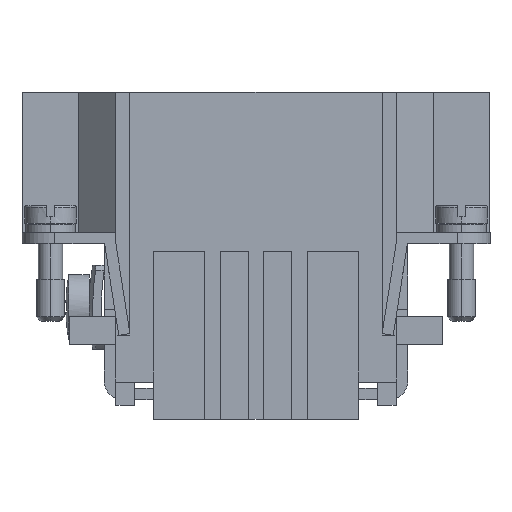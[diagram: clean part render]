
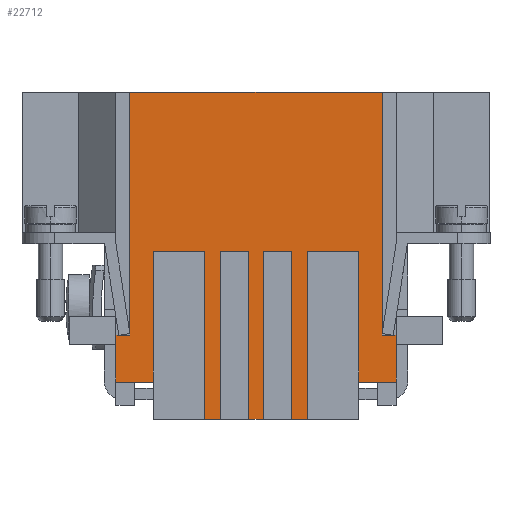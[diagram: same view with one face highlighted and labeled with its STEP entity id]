
A CAD part, front view. The second image highlights one B-rep face of the part: STEP entity #22712.
In plain terms, the highlighted planar face has unit normal (0, -1, 0).
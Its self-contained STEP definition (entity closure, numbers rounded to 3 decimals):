
#9570=CARTESIAN_POINT('',(5.5,-17.0,-35.0));
#9571=VERTEX_POINT('',#9570);
#9578=CARTESIAN_POINT('',(3.75,-17.0,-35.0));
#9579=VERTEX_POINT('',#9578);
#9580=CARTESIAN_POINT('',(3.75,-17.0,-35.0));
#9581=DIRECTION('',(1.0,0.0,0.0));
#9582=VECTOR('',#9581,1.75);
#9583=LINE('',#9580,#9582);
#9584=EDGE_CURVE('',#9579,#9571,#9583,.T.);
#9602=CARTESIAN_POINT('',(0.75,-17.0,-35.0));
#9603=VERTEX_POINT('',#9602);
#9610=CARTESIAN_POINT('',(-0.75,-17.0,-35.0));
#9611=VERTEX_POINT('',#9610);
#9612=CARTESIAN_POINT('',(-0.75,-17.0,-35.0));
#9613=DIRECTION('',(1.0,0.0,0.0));
#9614=VECTOR('',#9613,1.5);
#9615=LINE('',#9612,#9614);
#9616=EDGE_CURVE('',#9611,#9603,#9615,.T.);
#9634=CARTESIAN_POINT('',(-3.75,-17.0,-35.0));
#9635=VERTEX_POINT('',#9634);
#9642=CARTESIAN_POINT('',(-5.5,-17.0,-35.0));
#9643=VERTEX_POINT('',#9642);
#9644=CARTESIAN_POINT('',(-5.5,-17.0,-35.0));
#9645=DIRECTION('',(1.0,0.0,0.0));
#9646=VECTOR('',#9645,1.75);
#9647=LINE('',#9644,#9646);
#9648=EDGE_CURVE('',#9643,#9635,#9647,.T.);
#13465=CARTESIAN_POINT('',(-15.0,-17.0,-31.0));
#13466=VERTEX_POINT('',#13465);
#13473=CARTESIAN_POINT('',(-15.0,-17.0,-26.));
#13474=VERTEX_POINT('',#13473);
#13475=CARTESIAN_POINT('',(-15.0,-17.0,-26.));
#13476=DIRECTION('',(0.0,0.0,-1.0));
#13477=VECTOR('',#13476,5.);
#13478=LINE('',#13475,#13477);
#13479=EDGE_CURVE('',#13474,#13466,#13478,.T.);
#14041=CARTESIAN_POINT('',(15.0,-17.0,-26.));
#14042=VERTEX_POINT('',#14041);
#14049=CARTESIAN_POINT('',(15.0,-17.0,-31.0));
#14050=VERTEX_POINT('',#14049);
#14051=CARTESIAN_POINT('',(15.0,-17.0,-31.0));
#14052=DIRECTION('',(0.0,0.0,1.0));
#14053=VECTOR('',#14052,5.);
#14054=LINE('',#14051,#14053);
#14055=EDGE_CURVE('',#14050,#14042,#14054,.T.);
#17078=CARTESIAN_POINT('',(-13.5,-17.0,-25.815));
#17079=VERTEX_POINT('',#17078);
#17086=CARTESIAN_POINT('',(-14.686,-17.0,-26.0));
#17087=VERTEX_POINT('',#17086);
#17203=CARTESIAN_POINT('',(-14.686,-17.0,-26.0));
#17204=DIRECTION('',(-1.0,0.0,0.0));
#17205=VECTOR('',#17204,0.314);
#17206=LINE('',#17203,#17205);
#17207=EDGE_CURVE('',#17087,#13474,#17206,.T.);
#17231=CARTESIAN_POINT('',(-13.5,-17.0,-26.));
#17232=VERTEX_POINT('',#17231);
#17239=CARTESIAN_POINT('',(-13.5,-17.0,-25.815));
#17240=DIRECTION('',(0.0,0.0,-1.0));
#17241=VECTOR('',#17240,0.185);
#17242=LINE('',#17239,#17241);
#17243=EDGE_CURVE('',#17079,#17232,#17242,.T.);
#20687=CARTESIAN_POINT('',(14.686,-17.0,-26.0));
#20688=VERTEX_POINT('',#20687);
#20695=CARTESIAN_POINT('',(13.5,-17.0,-25.815));
#20696=VERTEX_POINT('',#20695);
#20790=CARTESIAN_POINT('',(13.5,-17.0,-26.));
#20791=VERTEX_POINT('',#20790);
#20798=CARTESIAN_POINT('',(14.686,-17.0,-26.0));
#20799=DIRECTION('',(-1.0,0.0,0.0));
#20800=VECTOR('',#20799,1.186);
#20801=LINE('',#20798,#20800);
#20802=EDGE_CURVE('',#20688,#20791,#20801,.T.);
#20826=CARTESIAN_POINT('',(13.5,-17.0,0.));
#20827=VERTEX_POINT('',#20826);
#20834=CARTESIAN_POINT('',(13.5,-17.0,-25.815));
#20835=DIRECTION('',(0.0,0.0,1.0));
#20836=VECTOR('',#20835,25.815);
#20837=LINE('',#20834,#20836);
#20838=EDGE_CURVE('',#20696,#20827,#20837,.T.);
#22547=CARTESIAN_POINT('',(-11.0,-17.0,-31.0));
#22548=VERTEX_POINT('',#22547);
#22555=CARTESIAN_POINT('',(-15.0,-17.0,-31.0));
#22556=DIRECTION('',(1.0,0.0,0.0));
#22557=VECTOR('',#22556,4.0);
#22558=LINE('',#22555,#22557);
#22559=EDGE_CURVE('',#13466,#22548,#22558,.T.);
#22567=CARTESIAN_POINT('',(-19.0,-17.0,0.0));
#22568=DIRECTION('',(0.0,-1.0,0.0));
#22569=DIRECTION('',(0.0,0.0,-1.0));
#22570=AXIS2_PLACEMENT_3D('',#22567,#22568,#22569);
#22571=PLANE('',#22570);
#22572=ORIENTED_EDGE('',*,*,#22559,.T.);
#22573=CARTESIAN_POINT('',(-11.,-17.0,-17.0));
#22574=VERTEX_POINT('',#22573);
#22575=CARTESIAN_POINT('',(-11.0,-17.0,-31.0));
#22576=DIRECTION('',(0.0,0.0,1.0));
#22577=VECTOR('',#22576,14.0);
#22578=LINE('',#22575,#22577);
#22579=EDGE_CURVE('',#22548,#22574,#22578,.T.);
#22580=ORIENTED_EDGE('',*,*,#22579,.T.);
#22581=CARTESIAN_POINT('',(-5.5,-17.0,-17.0));
#22582=VERTEX_POINT('',#22581);
#22583=CARTESIAN_POINT('',(-11.,-17.0,-17.0));
#22584=DIRECTION('',(1.0,0.0,0.0));
#22585=VECTOR('',#22584,5.5);
#22586=LINE('',#22583,#22585);
#22587=EDGE_CURVE('',#22574,#22582,#22586,.T.);
#22588=ORIENTED_EDGE('',*,*,#22587,.T.);
#22589=CARTESIAN_POINT('',(-5.5,-17.0,-17.0));
#22590=DIRECTION('',(0.0,0.0,-1.0));
#22591=VECTOR('',#22590,18.0);
#22592=LINE('',#22589,#22591);
#22593=EDGE_CURVE('',#22582,#9643,#22592,.T.);
#22594=ORIENTED_EDGE('',*,*,#22593,.T.);
#22595=ORIENTED_EDGE('',*,*,#9648,.T.);
#22596=CARTESIAN_POINT('',(-3.75,-17.0,-17.0));
#22597=VERTEX_POINT('',#22596);
#22598=CARTESIAN_POINT('',(-3.75,-17.0,-35.0));
#22599=DIRECTION('',(0.0,0.0,1.0));
#22600=VECTOR('',#22599,18.0);
#22601=LINE('',#22598,#22600);
#22602=EDGE_CURVE('',#9635,#22597,#22601,.T.);
#22603=ORIENTED_EDGE('',*,*,#22602,.T.);
#22604=CARTESIAN_POINT('',(-0.75,-17.0,-17.0));
#22605=VERTEX_POINT('',#22604);
#22606=CARTESIAN_POINT('',(-3.75,-17.0,-17.0));
#22607=DIRECTION('',(1.0,0.0,0.0));
#22608=VECTOR('',#22607,3.);
#22609=LINE('',#22606,#22608);
#22610=EDGE_CURVE('',#22597,#22605,#22609,.T.);
#22611=ORIENTED_EDGE('',*,*,#22610,.T.);
#22612=CARTESIAN_POINT('',(-0.75,-17.0,-17.0));
#22613=DIRECTION('',(0.0,0.0,-1.0));
#22614=VECTOR('',#22613,18.0);
#22615=LINE('',#22612,#22614);
#22616=EDGE_CURVE('',#22605,#9611,#22615,.T.);
#22617=ORIENTED_EDGE('',*,*,#22616,.T.);
#22618=ORIENTED_EDGE('',*,*,#9616,.T.);
#22619=CARTESIAN_POINT('',(0.75,-17.0,-17.0));
#22620=VERTEX_POINT('',#22619);
#22621=CARTESIAN_POINT('',(0.75,-17.0,-35.0));
#22622=DIRECTION('',(0.0,0.0,1.0));
#22623=VECTOR('',#22622,18.0);
#22624=LINE('',#22621,#22623);
#22625=EDGE_CURVE('',#9603,#22620,#22624,.T.);
#22626=ORIENTED_EDGE('',*,*,#22625,.T.);
#22627=CARTESIAN_POINT('',(3.75,-17.0,-17.0));
#22628=VERTEX_POINT('',#22627);
#22629=CARTESIAN_POINT('',(0.75,-17.0,-17.0));
#22630=DIRECTION('',(1.0,0.0,0.0));
#22631=VECTOR('',#22630,3.);
#22632=LINE('',#22629,#22631);
#22633=EDGE_CURVE('',#22620,#22628,#22632,.T.);
#22634=ORIENTED_EDGE('',*,*,#22633,.T.);
#22635=CARTESIAN_POINT('',(3.75,-17.0,-17.0));
#22636=DIRECTION('',(0.0,0.0,-1.0));
#22637=VECTOR('',#22636,18.0);
#22638=LINE('',#22635,#22637);
#22639=EDGE_CURVE('',#22628,#9579,#22638,.T.);
#22640=ORIENTED_EDGE('',*,*,#22639,.T.);
#22641=ORIENTED_EDGE('',*,*,#9584,.T.);
#22642=CARTESIAN_POINT('',(5.5,-17.0,-17.0));
#22643=VERTEX_POINT('',#22642);
#22644=CARTESIAN_POINT('',(5.5,-17.0,-35.0));
#22645=DIRECTION('',(0.0,0.0,1.0));
#22646=VECTOR('',#22645,18.0);
#22647=LINE('',#22644,#22646);
#22648=EDGE_CURVE('',#9571,#22643,#22647,.T.);
#22649=ORIENTED_EDGE('',*,*,#22648,.T.);
#22650=CARTESIAN_POINT('',(11.0,-17.0,-17.0));
#22651=VERTEX_POINT('',#22650);
#22652=CARTESIAN_POINT('',(5.5,-17.0,-17.0));
#22653=DIRECTION('',(1.0,0.0,0.0));
#22654=VECTOR('',#22653,5.5);
#22655=LINE('',#22652,#22654);
#22656=EDGE_CURVE('',#22643,#22651,#22655,.T.);
#22657=ORIENTED_EDGE('',*,*,#22656,.T.);
#22658=CARTESIAN_POINT('',(11.0,-17.0,-31.0));
#22659=VERTEX_POINT('',#22658);
#22660=CARTESIAN_POINT('',(11.0,-17.0,-17.0));
#22661=DIRECTION('',(0.0,0.0,-1.0));
#22662=VECTOR('',#22661,14.0);
#22663=LINE('',#22660,#22662);
#22664=EDGE_CURVE('',#22651,#22659,#22663,.T.);
#22665=ORIENTED_EDGE('',*,*,#22664,.T.);
#22666=CARTESIAN_POINT('',(11.0,-17.0,-31.0));
#22667=DIRECTION('',(1.0,0.0,0.0));
#22668=VECTOR('',#22667,4.0);
#22669=LINE('',#22666,#22668);
#22670=EDGE_CURVE('',#22659,#14050,#22669,.T.);
#22671=ORIENTED_EDGE('',*,*,#22670,.T.);
#22672=ORIENTED_EDGE('',*,*,#14055,.T.);
#22673=CARTESIAN_POINT('',(15.0,-17.0,-26.));
#22674=DIRECTION('',(-1.0,0.0,0.0));
#22675=VECTOR('',#22674,0.314);
#22676=LINE('',#22673,#22675);
#22677=EDGE_CURVE('',#14042,#20688,#22676,.T.);
#22678=ORIENTED_EDGE('',*,*,#22677,.T.);
#22679=ORIENTED_EDGE('',*,*,#20802,.T.);
#22680=CARTESIAN_POINT('',(13.5,-17.0,-26.));
#22681=DIRECTION('',(0.0,0.0,1.0));
#22682=VECTOR('',#22681,0.185);
#22683=LINE('',#22680,#22682);
#22684=EDGE_CURVE('',#20791,#20696,#22683,.T.);
#22685=ORIENTED_EDGE('',*,*,#22684,.T.);
#22686=ORIENTED_EDGE('',*,*,#20838,.T.);
#22687=CARTESIAN_POINT('',(-13.5,-17.0,0.));
#22688=VERTEX_POINT('',#22687);
#22689=CARTESIAN_POINT('',(13.5,-17.0,0.));
#22690=DIRECTION('',(-1.0,0.0,0.0));
#22691=VECTOR('',#22690,27.0);
#22692=LINE('',#22689,#22691);
#22693=EDGE_CURVE('',#20827,#22688,#22692,.T.);
#22694=ORIENTED_EDGE('',*,*,#22693,.T.);
#22695=CARTESIAN_POINT('',(-13.5,-17.0,0.));
#22696=DIRECTION('',(0.0,0.0,-1.0));
#22697=VECTOR('',#22696,25.815);
#22698=LINE('',#22695,#22697);
#22699=EDGE_CURVE('',#22688,#17079,#22698,.T.);
#22700=ORIENTED_EDGE('',*,*,#22699,.T.);
#22701=ORIENTED_EDGE('',*,*,#17243,.T.);
#22702=CARTESIAN_POINT('',(-13.5,-17.0,-26.));
#22703=DIRECTION('',(-1.0,0.0,0.0));
#22704=VECTOR('',#22703,1.186);
#22705=LINE('',#22702,#22704);
#22706=EDGE_CURVE('',#17232,#17087,#22705,.T.);
#22707=ORIENTED_EDGE('',*,*,#22706,.T.);
#22708=ORIENTED_EDGE('',*,*,#17207,.T.);
#22709=ORIENTED_EDGE('',*,*,#13479,.T.);
#22710=EDGE_LOOP('',(#22572,#22580,#22588,#22594,#22595,#22603,#22611,#22617,#22618,#22626,#22634,#22640,#22641,#22649,#22657,#22665,#22671,#22672,#22678,#22679,#22685,#22686,#22694,#22700,#22701,#22707,#22708,#22709));
#22711=FACE_OUTER_BOUND('',#22710,.T.);
#22712=ADVANCED_FACE('',(#22711),#22571,.T.);
